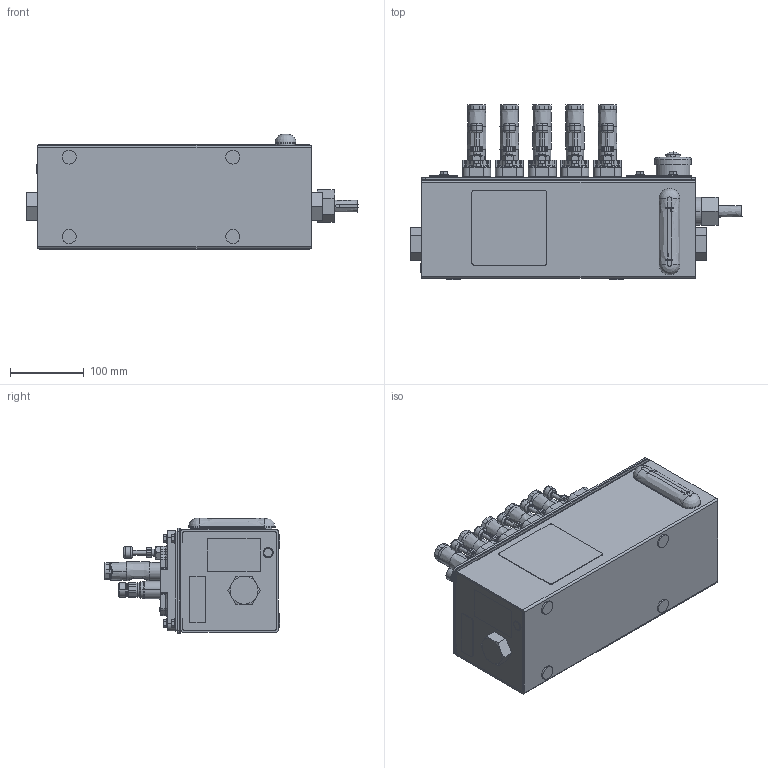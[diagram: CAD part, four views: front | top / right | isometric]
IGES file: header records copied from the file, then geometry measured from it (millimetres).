
Start section:  PTC IGES file: 24w635-en-h.igs
Global section: file name: 24w635-en-h.igs; native system: Creo Parametric by PTC Inc.; preprocessor: 2019030; author: qusrh3; organization: Unknown; date: 20191231.181432; units: inch
Bounding box: 450.88 x 238.86 x 156.72 mm (x, y, z)
Surface area: 575805 mm2 (no closed solid volume)
Topology: 0 solids, 0 shells, 1651 faces, 7937 edges, 7935 vertices
Faces by surface type: revolution 965, bspline 686
